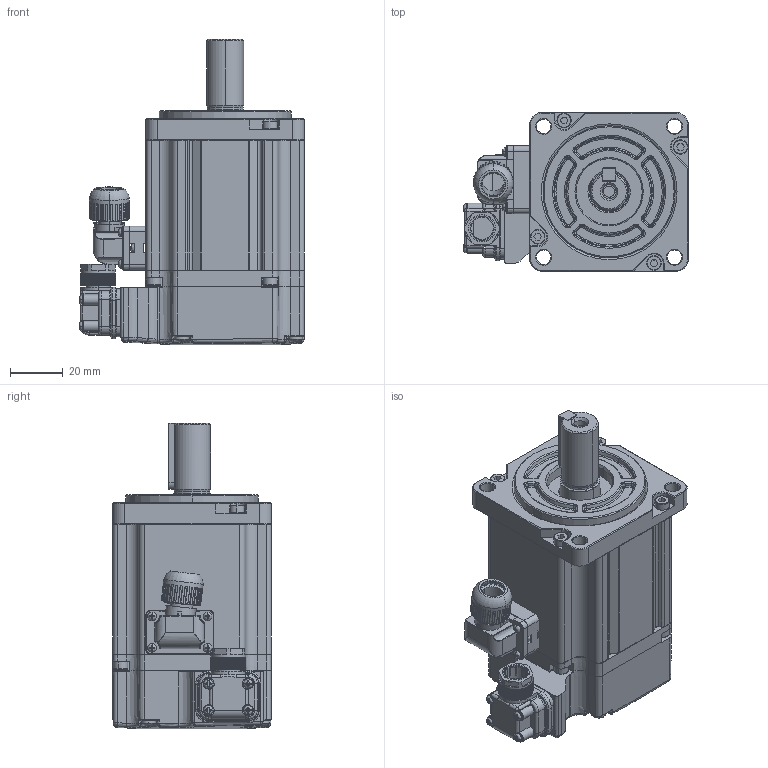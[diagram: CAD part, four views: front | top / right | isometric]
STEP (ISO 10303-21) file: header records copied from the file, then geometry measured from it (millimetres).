
FILE_DESCRIPTION (( 'STEP AP214' ), '1' );
FILE_NAME ('SM3L-061AANDV.STEP', '2019-01-18T01:32:09', ( '11' ), ( '' ), 'SwSTEP 2.0', 'SolidWorks 2015', '' );
FILE_SCHEMA (( 'AUTOMOTIVE_DESIGN' ));
Length unit declared in the file: millimetre
Products named in the file (1): SM3L-061AANDV
Bounding box: 85.15 x 60.1 x 115.5 mm (x, y, z)
Surface area: 40352.2 mm2 (no closed solid volume)
Topology: 0 solids, 49 shells, 1323 faces, 4871 edges, 3404 vertices
Faces by surface type: plane 542, cone 279, cylinder 262, bspline 170, torus 62, sphere 8
Entity records: 88952 total; most frequent: CARTESIAN_POINT 38197, ORIENTED_EDGE 7612, DIRECTION 6194, EDGE_CURVE 4853, VERTEX_POINT 3404, AXIS2_PLACEMENT_3D 2238, B_SPLINE_CURVE_WITH_KNOTS 1954, VECTOR 1718
